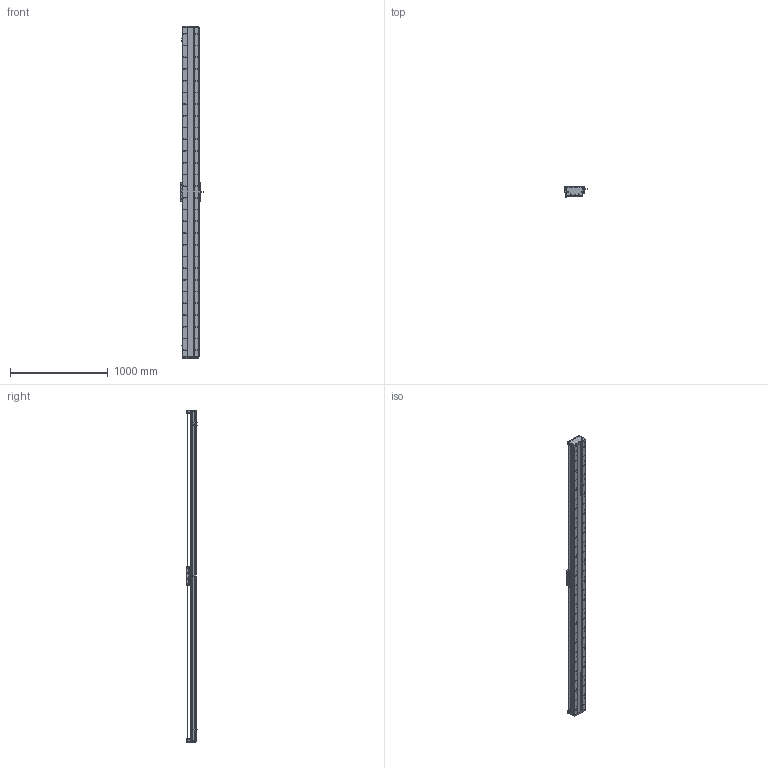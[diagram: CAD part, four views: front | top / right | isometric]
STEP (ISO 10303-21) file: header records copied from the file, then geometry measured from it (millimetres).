
FILE_DESCRIPTION (( 'STEP AP203' ), '1' );
FILE_NAME ('DA-C165-C2-T3120-C010-0.2 直线电机.STEP', '2023-05-11T07:55:31', ( '微软用户' ), ( '微软中国' ), 'SwSTEP 2.0', 'SolidWorks 2019', '' );
FILE_SCHEMA (( 'CONFIG_CONTROL_DESIGN' ));
Length unit declared in the file: millimetre
Products named in the file (18): 复件 DA165-GD-DG-H-00 端盖^复件 CU165钢带组件_DA-C165-C2-T-C010-0.2-N 直线电机; 珨极趙賑雄怢啣wf-C2; 复件 XD-U-02L 磁栅尺^DA-C165-C2-T-C010-0.2-N 直线电机_T; 葩璃 CKM01-W075-TRL^DA-C165-C2-T-C010-0.2-N 眻盄萇儂; 复件 DA165-GYP-00 光电感应片^DA-C165-C2-T-C010-0.2-N 直线电机; IU-CU165-L 菁釱絳寢; 复件 六角薄螺母 M3^DA-C165-C2-T-C010-0.2-N 直线电机_GB_FASTENER_NUT_STNAB M3-C; 复件 CU165钢带组件^DA-C165-C2-T-C010-0.2-N 直线电机; 复件 DA95-HXJ-00 缓冲橡胶^DA-C165-C2-T-C010-0.2-N 直线电机; 葩璃 DA95-GT-T-00^IU-CU165-L 菁釱絳寢_T; 复件 DA165-GD-1860-002-00 钢带盖板^复件 CU165钢带组件_DA-C165-C2-T-C010-0.2-N 直线电机; 复件 DA165-GDYK-00 钢带压块^复件 CU165钢带组件_DA-C165-C2-T-C010-0.2-N 直线电机; 复件 DMA-010-0.2 读数头^DA-C165-C2-T-C010-0.2-N 直线电机; 葩璃 PM-T45^DA-C165-C2-T-C010-0.2-N 眻盄萇儂; DA-C165-C2-T3120-C010-0.2 眻盄萇儂; IU-CU165-L-00 菁釱_L3360; 复件 DA165-GDLK-00 钢带拉块^复件 CU165钢带组件_DA-C165-C2-T-C010-0.2-N 直线电机; 复件 CKM02-W075-C1C2-TP-3.0 一体电机-C2^DA-C165-C2-T-C010-0.2-N 直线电机
Assembly tree (33 placements, depth 3):
  DA-C165-C2-T3120-C010-0.2 眻盄萇儂
    IU-CU165-L 菁釱絳寢
      IU-CU165-L-00 菁釱_L3360
      葩璃 DA95-GT-T-00^IU-CU165-L 菁釱絳寢_T  x4
    复件 XD-U-02L 磁栅尺^DA-C165-C2-T-C010-0.2-N 直线电机_T
    葩璃 PM-T45^DA-C165-C2-T-C010-0.2-N 眻盄萇儂  x3
    葩璃 CKM01-W075-TRL^DA-C165-C2-T-C010-0.2-N 眻盄萇儂
    复件 CU165钢带组件^DA-C165-C2-T-C010-0.2-N 直线电机
      复件 DA165-GD-DG-H-00 端盖^复件 CU165钢带组件_DA-C165-C2-T-C010-0.2-N 直线电机  x2
      复件 DA165-GDYK-00 钢带压块^复件 CU165钢带组件_DA-C165-C2-T-C010-0.2-N 直线电机  x2
      复件 DA165-GD-1860-002-00 钢带盖板^复件 CU165钢带组件_DA-C165-C2-T-C010-0.2-N 直线电机
      复件 DA165-GDLK-00 钢带拉块^复件 CU165钢带组件_DA-C165-C2-T-C010-0.2-N 直线电机  x2
    复件 DA95-HXJ-00 缓冲橡胶^DA-C165-C2-T-C010-0.2-N 直线电机  x4
    复件 DA165-GYP-00 光电感应片^DA-C165-C2-T-C010-0.2-N 直线电机
    复件 DMA-010-0.2 读数头^DA-C165-C2-T-C010-0.2-N 直线电机
    复件 CKM02-W075-C1C2-TP-3.0 一体电机-C2^DA-C165-C2-T-C010-0.2-N 直线电机
    复件 六角薄螺母 M3^DA-C165-C2-T-C010-0.2-N 直线电机_GB_FASTENER_NUT_STNAB M3-C  x6
    珨极趙賑雄怢啣wf-C2
Bounding box: 233 x 111.45 x 3400 mm (x, y, z)
Volume: 18302020.6 mm3; surface area: 5589206 mm2
Topology: 70 solids, 70 shells, 4267 faces, 12847 edges, 8257 vertices
Faces by surface type: cylinder 2661, plane 1126, cone 430, torus 46, sphere 4
Entity records: 150407 total; most frequent: CARTESIAN_POINT 42445, ORIENTED_EDGE 22866, DIRECTION 21563, EDGE_CURVE 11433, AXIS2_PLACEMENT_3D 8283, VERTEX_POINT 7493, EDGE_LOOP 5166, LINE 4997
